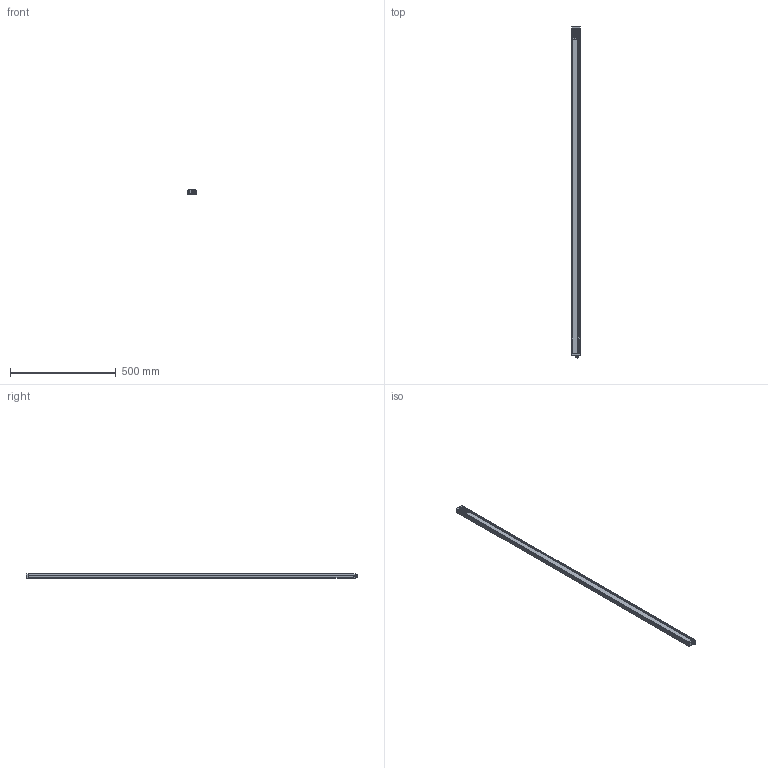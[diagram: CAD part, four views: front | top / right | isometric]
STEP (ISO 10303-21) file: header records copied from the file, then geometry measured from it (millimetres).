
FILE_DESCRIPTION(/* description */ (''),/* implementation_level */ '2;1');
FILE_NAME(/* name */ 'C:\Users\andre\SynologyDrive\Optoscan\Libreria Componenti\00 - Barriere\Polaris sorgente\Barriera Polaris RX\Polaris_1540_RX.stp',/* time_stamp */ '2021-06-04T11:54:11+02:00',/* author */ ('andre'),/* organization */ (''),/* preprocessor_version */ 'ST-DEVELOPER v18',/* originating_system */ 'Autodesk Inventor 2020',/* authorisation */ '');
FILE_SCHEMA (('AUTOMOTIVE_DESIGN { 1 0 10303 214 3 1 1 }'));
Length unit declared in the file: millimetre
Products named in the file (1): Polaris_1540_RX
Bounding box: 40.5 x 1569.3 x 20.75 mm (x, y, z)
Volume: 310299.5 mm3; surface area: 410248.7 mm2
Topology: 1 solids, 1 shells, 700 faces, 1926 edges, 1237 vertices
Faces by surface type: plane 319, cylinder 199, bspline 94, torus 70, sphere 10, cone 8
Full cylindrical faces by diameter (mm): 1 x8, 2.459 x4, 2.5 x4, 3 x4, 3.5 x4, 5.5 x4, 8 x1, 10.5 x2, 11.75 x9, 15.7 x1, 17.5 x1
Entity records: 28472 total; most frequent: CARTESIAN_POINT 10246, ORIENTED_EDGE 3826, DIRECTION 3447, EDGE_CURVE 1913, VERTEX_POINT 1237, AXIS2_PLACEMENT_3D 1211, LINE 1025, VECTOR 1025
